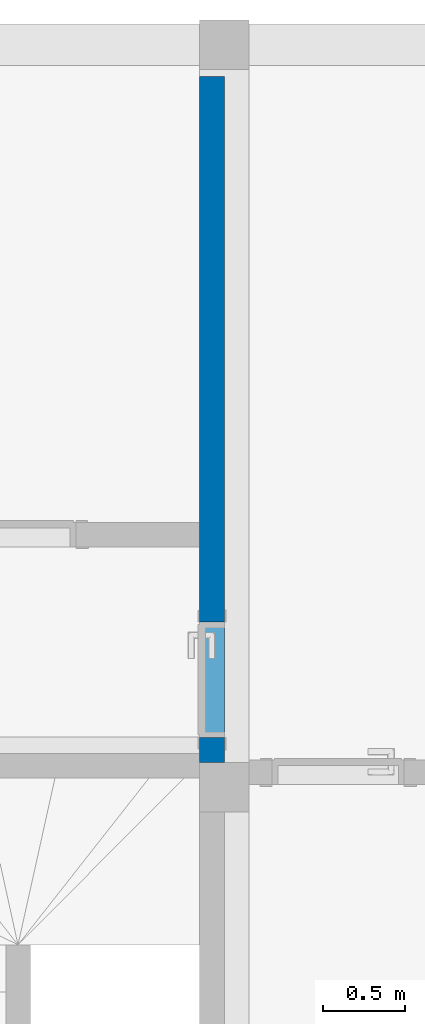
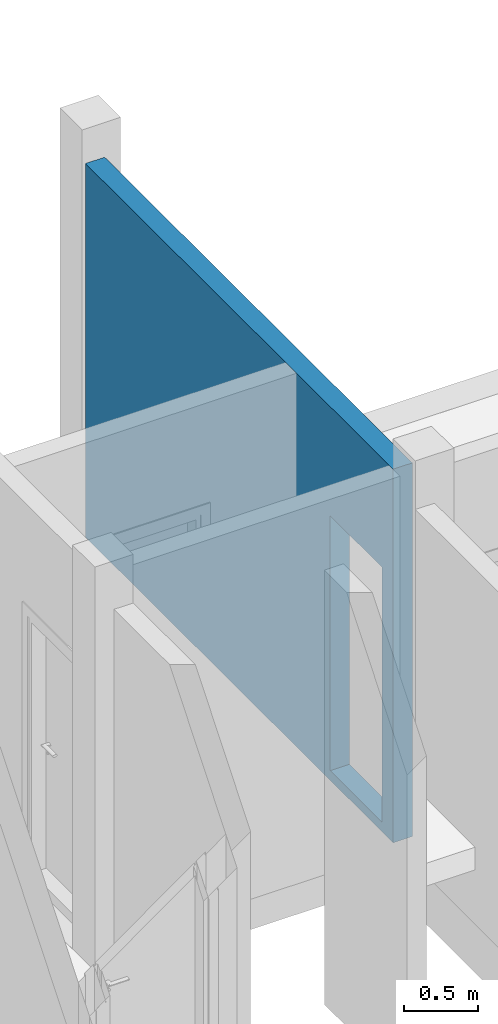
# One storey, part 10 of 11: 1 wall, 1 opening.
"""IFC2X3 building model written with IfcOpenShell, lengths in metres."""

from ifc_helpers import new_model, entity, si_unit, converted_unit, derived_unit, direction, frame, frame_2d, origin, place, context, subcontext, project, spatial, polyline, rectangle, extrude, clip, bounded_halfspace, material, layer, layer_set, layer_usage, type_object, element, save


model = new_model("IFC2X3")

# Units and contexts
model_context = context("Model", 3, precision=1e-05, world=origin(), true_north=direction((6.12303176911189e-17, 1.0)))
context_of_model = context(None, 3, precision=1e-05, world=origin(), true_north=direction((6.12303176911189e-17, 1.0)))
body_context = subcontext(model_context, "Body", "Model", "MODEL_VIEW")
ifc_project = project(units=[si_unit("LENGTHUNIT", "METRE"), si_unit("AREAUNIT", "SQUARE_METRE"), si_unit("VOLUMEUNIT", "CUBIC_METRE"), converted_unit("PLANEANGLEUNIT", "DEGREE", entity("IfcRatioMeasure", 0.0174532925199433), si_unit("PLANEANGLEUNIT", "RADIAN"), dimensions=[0, 0, 0, 0, 0, 0, 0]), si_unit("MASSUNIT", "GRAM", prefix="KILO"), si_unit("TIMEUNIT", "SECOND"), si_unit("FREQUENCYUNIT", "HERTZ"), si_unit("THERMODYNAMICTEMPERATUREUNIT", "DEGREE_CELSIUS"), derived_unit("THERMALTRANSMITTANCEUNIT", [(si_unit("MASSUNIT", "GRAM", prefix="KILO"), 1), (si_unit("THERMODYNAMICTEMPERATUREUNIT", "KELVIN"), -1), (si_unit("TIMEUNIT", "SECOND"), -3)]), derived_unit("VOLUMETRICFLOWRATEUNIT", [(si_unit("LENGTHUNIT", "METRE"), 3), (si_unit("TIMEUNIT", "SECOND"), -1)]), si_unit("ELECTRICCURRENTUNIT", "AMPERE"), si_unit("ELECTRICVOLTAGEUNIT", "VOLT"), si_unit("POWERUNIT", "WATT"), si_unit("FORCEUNIT", "NEWTON", prefix="KILO"), si_unit("ILLUMINANCEUNIT", "LUX"), si_unit("LUMINOUSFLUXUNIT", "LUMEN"), si_unit("LUMINOUSINTENSITYUNIT", "CANDELA"), si_unit("PRESSUREUNIT", "PASCAL")], contexts=[model_context, context_of_model])

# Site, building, storey
site_placement = place(None, origin())
site = spatial("IfcSite", under=ifc_project, at=site_placement, Name="Default", CompositionType="ELEMENT")
building_placement = place(site_placement, origin())
building = spatial("IfcBuilding", under=site, at=building_placement, CompositionType="ELEMENT")
storey_placement = place(building_placement, frame((0.0, 0.0, 3.45)))
storey = spatial("IfcBuildingStorey", under=building, at=storey_placement, Name="02.ES.PLANTA PRIMERA", CompositionType="ELEMENT", Elevation=3.45)

# Wall, opening
ifc_material = material(Name="Muro por defecto")
ifc_layer = layer(ifc_material, 0.15)
ifc_layer_set = layer_set([ifc_layer], Name="Muro básico:Por defecto - 15 cm")
ifc_layer_usage = layer_usage(ifc_layer_set, "AXIS2", "NEGATIVE", 0.075)
wall_type = type_object("IfcWallType", Name="Muro básico:Por defecto - 15 cm", PredefinedType="STANDARD", material=ifc_layer_set)
wall_placement = place(storey_placement, frame((11.49, 8.75000000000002, 0.0), z_axis=(0.0, 0.0, 1.0), x_axis=(0.0, 1.0, 0.0)))
wall = element("IfcWallStandardCase", 1, at=wall_placement, inside=storey, type_object=wall_type, material=ifc_layer_usage, Name="Muro básico:Por defecto - 15 cm", ObjectType="Muro básico:Por defecto - 15 cm", context=body_context, shape_type="Clipping", body=[
    clip(extrude(rectangle(XDim=4.15651773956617, YDim=0.150000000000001, at=frame_2d((2.07825886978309, 0.0), x_axis=(-1.0, 0.0))), origin(), (0.0, 0.0, 1.0), 3.08), bounded_halfspace(frame((0.0, -0.0749999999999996, 0.0), z_axis=(1.0, 0.0, 0.0), x_axis=(0.0, 0.0, -1.0)), True, frame((0.0, -0.0749999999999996, 0.0), z_axis=(1.0, 0.0, 0.0), x_axis=(0.0, 0.0, -1.0)), polyline([(0.0, 0.0), (0.0, 0.150000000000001), (-3.08, 0.150000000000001), (-3.08, 0.0), (0.0, 0.0)]))),
])
opening_placement = place(wall_placement, frame((0.149999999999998, -0.0750000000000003, 0.0799999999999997)))
element("IfcOpeningElement", 2, at=opening_placement, cuts=wall, Name="Puerta de 1 hoja:70 x 210 cm:1", ObjectType="Opening", context=body_context, shape_type="SweptSolid", body=[
    extrude(rectangle(XDim=2.09999999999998, YDim=0.7, at=frame_2d((1.04999999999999, 0.35), x_axis=(1.0, 0.0))), frame((0.0, 0.0, 0.0), z_axis=(0.0, 1.0, 0.0), x_axis=(0.0, 0.0, 1.0)), (0.0, 0.0, 1.0), 0.15),
])

save(model, "model.ifc")
